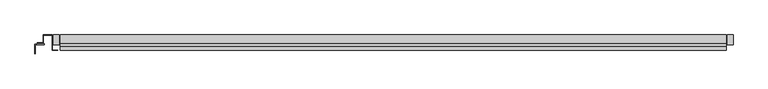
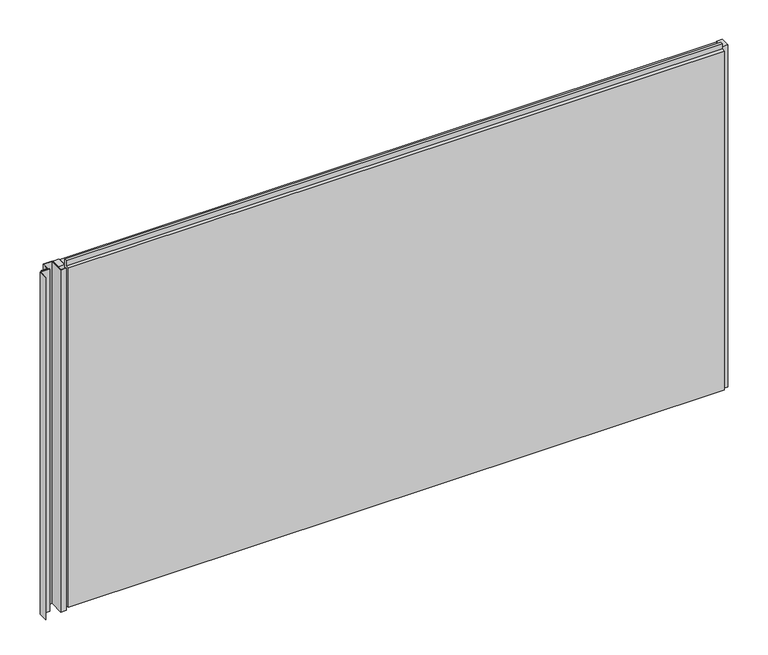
"""IFC4 building model written with IfcOpenShell, lengths in millimetres: plate geometry, Trimo_Qbiss Screen_Normal Panel-HORIZONTAL : HR - FB-F."""

from ifc_helpers import new_model, si_unit, frame, origin, place, context, project, spatial, polyline, outline, extrude, source, transform, mapped, element, save


def plate_ef433255(model_context):
    return source(origin(), model_context, "Body", "SweptSolid", [
        extrude(outline(polyline([(-1059.5, 50.0), (-1059.5, 49.2), (-1077.8, 49.2), (-1077.8, 99.1967741), (-1106.2, 99.1967741), (-1106.2, 74.2), (-1126.2, 74.2), (-1126.2, 72.8), (-1112.0, 72.8), (-1112.0, 72.0), (-1127.0, 72.0), (-1127.0, 75.0), (-1107.0, 75.0), (-1107.0, 100.0), (-1077.0, 100.0), (-1077.0, 50.0), (-1059.5, 50.0)])), frame((0.0, 0.0, -1.0), z_axis=(0.0, 0.0, 1.0), x_axis=(1.0, 0.0, 0.0)), (0.0, 0.0, 1.0), 1200.0),
        extrude(outline(polyline([(-1103.0, 71.0), (-1103.0, 68.0), (-1133.2272593, 68.0), (-1133.2272593, 38.5929448), (-1134.0, 38.8), (-1134.0, 68.8), (-1103.8, 68.8), (-1103.8, 70.2), (-1127.0, 70.2), (-1127.0, 71.0), (-1103.0, 71.0)])), frame((0.0, 0.0, -1.0), z_axis=(0.0, 0.0, 1.0), x_axis=(1.0, 0.0, 0.0)), (0.0, 0.0, 1.0), 1200.0),
        extrude(outline(polyline([(-1055.0, 67.8978162), (-1074.0, 67.8978162), (-1074.0, 100.0), (-1055.0, 100.0), (-1055.0, 67.8978162)])), frame((0.0, 0.0, -1.0), z_axis=(0.0, 0.0, 1.0), x_axis=(1.0, 0.0, 0.0)), (0.0, 0.0, 1.0), 1200.0),
        extrude(outline(polyline([(1144.5, 67.8978162), (1125.5, 67.8978162), (1125.5, 100.0), (1144.5, 100.0), (1144.5, 67.8978162)])), frame((0.0, 0.0, -1.0), z_axis=(0.0, 0.0, 1.0), x_axis=(1.0, 0.0, 0.0)), (0.0, 0.0, 1.0), 1200.0),
        extrude(outline(polyline([(71.0, 1196.0), (100.0, 1196.0), (100.0, 0.0), (72.0, 0.0), (72.0, 15.5), (62.0, 15.5), (62.0, 7.0), (50.0, 7.0), (50.0, 1196.0), (63.0, 1196.0), (63.0, 1214.5), (71.0, 1214.5), (71.0, 1196.0)])), frame((-1052.0, 0.0, 0.0), z_axis=(1.0, 0.0, 0.0), x_axis=(0.0, 1.0, 0.0)), (0.0, 0.0, 1.0), 2174.5),
    ])


if __name__ == "__main__":
    model = new_model("IFC4")
    model_context = context("Model", 3, world=origin())
    ifc_project = project(units=[si_unit("LENGTHUNIT", "METRE", prefix="MILLI")], contexts=[model_context])
    site = spatial("IfcSite", under=ifc_project)
    building = spatial("IfcBuilding", under=site)
    placement = place(None, origin())
    plate_shape = plate_ef433255(model_context)
    element("IfcPlate", 1, ObjectType="Trimo_Qbiss Screen_Normal Panel-HORIZONTAL : HR - FB-F", at=placement, inside=building, context=model_context, shape_type="MappedRepresentation", body=[
        mapped(plate_shape, transform((0.0, 0.0, 0.0), x_axis=(1.0, 0.0, 0.0), y_axis=(0.0, 1.0, 0.0), z_axis=(0.0, 0.0, 1.0))),
    ])
    save(model, "model.ifc")
